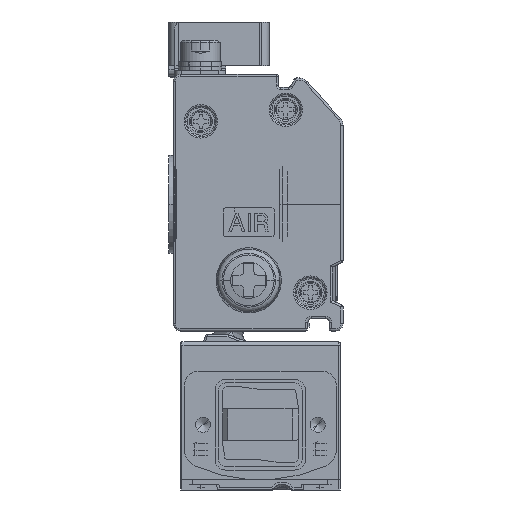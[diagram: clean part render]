
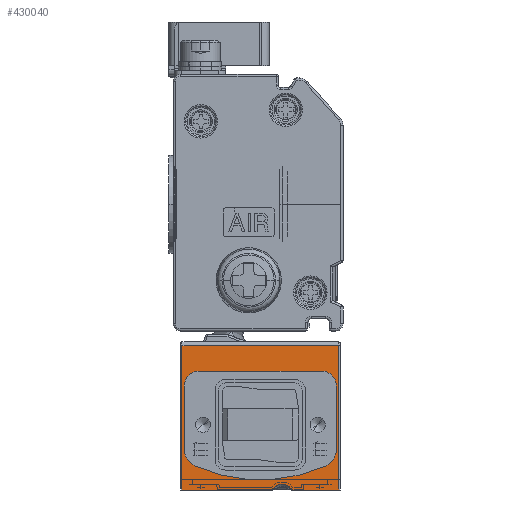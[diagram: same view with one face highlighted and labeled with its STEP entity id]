
A CAD part, left-side view. The second image highlights one B-rep face of the part: STEP entity #430040.
In plain terms, the highlighted planar face has unit normal (-1, 0, 0) as drawn and (1, 0, 0) by its records, which use the part's own axes.
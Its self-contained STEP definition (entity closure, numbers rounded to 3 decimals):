
#428210=CARTESIAN_POINT('',(84.,8.,7.2));
#428220=DIRECTION('',(-1.,0.,0.));
#428230=DIRECTION('',(0.,1.,0.));
#428240=AXIS2_PLACEMENT_3D('',#428210,#428220,#428230);
#428250=CIRCLE('',#428240,1.5);
#428260=CARTESIAN_POINT('',(84.,9.327,6.5));
#428270=VERTEX_POINT('',#428260);
#428280=CARTESIAN_POINT('',(84.,6.673,6.5));
#428290=VERTEX_POINT('',#428280);
#428300=EDGE_CURVE('',#428270,#428290,#428250,.T.);
#428800=CARTESIAN_POINT('',(84.,0.,6.5));
#428810=DIRECTION('',(0.,-1.,0.));
#428820=VECTOR('',#428810,1.);
#428830=LINE('',#428800,#428820);
#428840=CARTESIAN_POINT('',(84.,0.2,6.5));
#428850=VERTEX_POINT('',#428840);
#428860=EDGE_CURVE('',#428290,#428850,#428830,.T.);
#428980=CARTESIAN_POINT('',(84.,22.,0.));
#428990=DIRECTION('',(-1.,0.,0.));
#429000=DIRECTION('',(0.,1.,0.));
#429010=AXIS2_PLACEMENT_3D('',#428980,#428990,#429000);
#429020=PLANE('',#429010);
#429030=CARTESIAN_POINT('',(84.,19.4,-7.8));
#429040=DIRECTION('',(-1.,0.,0.));
#429050=DIRECTION('',(0.,1.,0.));
#429060=AXIS2_PLACEMENT_3D('',#429030,#429040,#429050);
#429070=CIRCLE('',#429060,2.1);
#429080=CARTESIAN_POINT('',(84.,21.5,-7.8));
#429090=VERTEX_POINT('',#429080);
#429100=CARTESIAN_POINT('',(84.,19.4,-9.9));
#429110=VERTEX_POINT('',#429100);
#429120=EDGE_CURVE('',#429090,#429110,#429070,.T.);
#429130=ORIENTED_EDGE('',*,*,#429120,.T.);
#429140=CARTESIAN_POINT('',(84.,21.5,0.));
#429150=DIRECTION('',(0.,0.,1.));
#429160=VECTOR('',#429150,1.);
#429170=LINE('',#429140,#429160);
#429180=CARTESIAN_POINT('',(84.,21.5,0.828));
#429190=VERTEX_POINT('',#429180);
#429200=EDGE_CURVE('',#429090,#429190,#429170,.T.);
#429210=ORIENTED_EDGE('',*,*,#429200,.F.);
#429220=CARTESIAN_POINT('',(84.,18.9,0.828));
#429230=DIRECTION('',(1.,0.,0.));
#429240=DIRECTION('',(0.,-1.,0.));
#429250=AXIS2_PLACEMENT_3D('',#429220,#429230,#429240);
#429260=CIRCLE('',#429250,2.6);
#429270=CARTESIAN_POINT('',(84.,19.953,3.205));
#429280=VERTEX_POINT('',#429270);
#429290=EDGE_CURVE('',#429190,#429280,#429260,.T.);
#429300=ORIENTED_EDGE('',*,*,#429290,.F.);
#429310=CARTESIAN_POINT('',(84.,11.,-17.));
#429320=DIRECTION('',(1.,0.,0.));
#429330=DIRECTION('',(0.,-1.,0.));
#429340=AXIS2_PLACEMENT_3D('',#429310,#429320,#429330);
#429350=CIRCLE('',#429340,22.1);
#429360=CARTESIAN_POINT('',(84.,2.047,3.205));
#429370=VERTEX_POINT('',#429360);
#429380=EDGE_CURVE('',#429280,#429370,#429350,.T.);
#429390=ORIENTED_EDGE('',*,*,#429380,.F.);
#429400=CARTESIAN_POINT('',(84.,3.1,0.828));
#429410=DIRECTION('',(1.,0.,0.));
#429420=DIRECTION('',(0.,-1.,0.));
#429430=AXIS2_PLACEMENT_3D('',#429400,#429410,#429420);
#429440=CIRCLE('',#429430,2.6);
#429450=CARTESIAN_POINT('',(84.,0.5,0.828));
#429460=VERTEX_POINT('',#429450);
#429470=EDGE_CURVE('',#429370,#429460,#429440,.T.);
#429480=ORIENTED_EDGE('',*,*,#429470,.F.);
#429490=CARTESIAN_POINT('',(84.,0.5,0.));
#429500=DIRECTION('',(0.,0.,-1.));
#429510=VECTOR('',#429500,1.);
#429520=LINE('',#429490,#429510);
#429530=CARTESIAN_POINT('',(84.,0.5,-7.8));
#429540=VERTEX_POINT('',#429530);
#429550=EDGE_CURVE('',#429460,#429540,#429520,.T.);
#429560=ORIENTED_EDGE('',*,*,#429550,.F.);
#429570=CARTESIAN_POINT('',(84.,2.6,-7.8));
#429580=DIRECTION('',(-1.,0.,0.));
#429590=DIRECTION('',(0.,1.,0.));
#429600=AXIS2_PLACEMENT_3D('',#429570,#429580,#429590);
#429610=CIRCLE('',#429600,2.1);
#429620=CARTESIAN_POINT('',(84.,2.6,-9.9));
#429630=VERTEX_POINT('',#429620);
#429640=EDGE_CURVE('',#429630,#429540,#429610,.T.);
#429650=ORIENTED_EDGE('',*,*,#429640,.T.);
#429660=CARTESIAN_POINT('',(84.,0.,-9.9));
#429670=DIRECTION('',(0.,1.,0.));
#429680=VECTOR('',#429670,1.);
#429690=LINE('',#429660,#429680);
#429700=EDGE_CURVE('',#429630,#429110,#429690,.T.);
#429710=ORIENTED_EDGE('',*,*,#429700,.F.);
#429720=EDGE_LOOP('',(#429710,#429650,#429560,#429480,#429390,#429300,
#429210,#429130));
#429730=FACE_BOUND('',#429720,.T.);
#429740=CARTESIAN_POINT('',(84.,0.2,0.));
#429750=DIRECTION('',(0.,0.,-1.));
#429760=VECTOR('',#429750,1.);
#429770=LINE('',#429740,#429760);
#429780=CARTESIAN_POINT('',(84.,0.2,-13.4));
#429790=VERTEX_POINT('',#429780);
#429800=EDGE_CURVE('',#428850,#429790,#429770,.T.);
#429810=ORIENTED_EDGE('',*,*,#429800,.T.);
#429820=ORIENTED_EDGE('',*,*,#428860,.T.);
#429830=ORIENTED_EDGE('',*,*,#428300,.T.);
#429840=CARTESIAN_POINT('',(84.,21.8,6.5));
#429850=VERTEX_POINT('',#429840);
#429860=EDGE_CURVE('',#429850,#428270,#428830,.T.);
#429870=ORIENTED_EDGE('',*,*,#429860,.T.);
#429880=CARTESIAN_POINT('',(84.,21.8,0.));
#429890=DIRECTION('',(0.,0.,-1.));
#429900=VECTOR('',#429890,1.);
#429910=LINE('',#429880,#429900);
#429920=CARTESIAN_POINT('',(84.,21.8,-13.4));
#429930=VERTEX_POINT('',#429920);
#429940=EDGE_CURVE('',#429850,#429930,#429910,.T.);
#429950=ORIENTED_EDGE('',*,*,#429940,.F.);
#429960=CARTESIAN_POINT('',(84.,0.,-13.4));
#429970=DIRECTION('',(0.,1.,0.));
#429980=VECTOR('',#429970,1.);
#429990=LINE('',#429960,#429980);
#430000=EDGE_CURVE('',#429790,#429930,#429990,.T.);
#430010=ORIENTED_EDGE('',*,*,#430000,.T.);
#430020=EDGE_LOOP('',(#430010,#429950,#429870,#429830,#429820,#429810));
#430030=FACE_OUTER_BOUND('',#430020,.T.);
#430040=ADVANCED_FACE('',(#429730,#430030),#429020,.F.);
